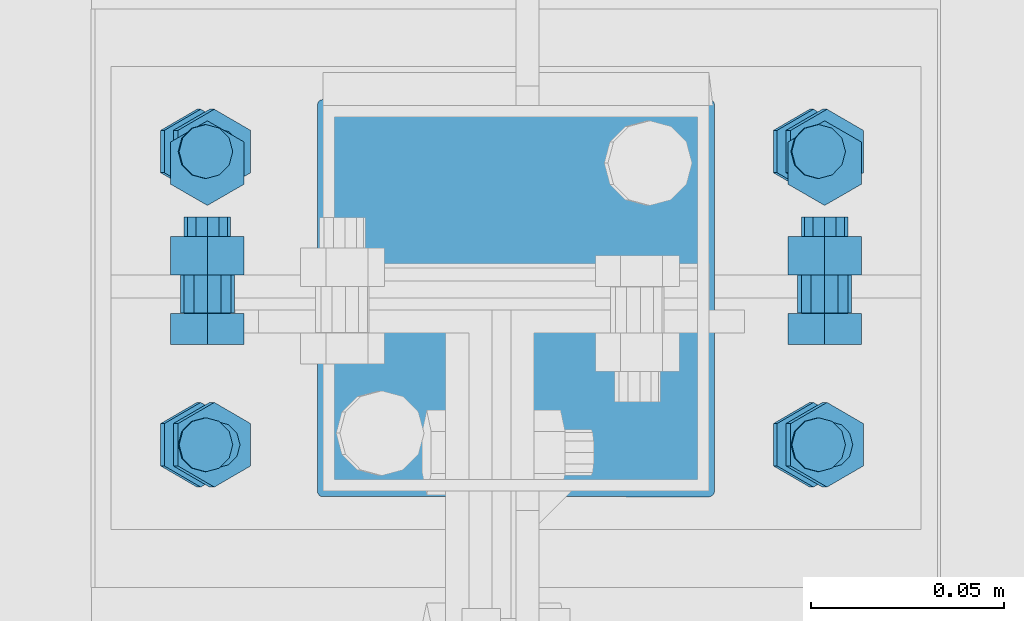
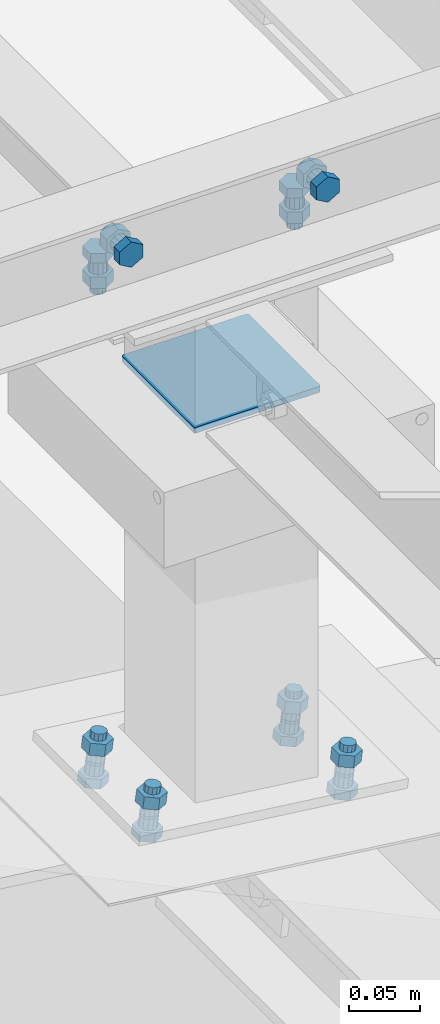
# One storey, part 378 of 3134: 5 mechanical fasteners, 4 elements without a shape of their own.
"""IFC2X3 building model written with IfcOpenShell, lengths in millimetres."""

from ifc_helpers import new_model, si_unit, frame, origin_with_axes, place, context, subcontext, project, spatial, faceted_brep, source, transform, mapped, material, type_object, element, aggregate, save


model = new_model("IFC2X3")

# Units and contexts
model_context = context("Model", 3, precision=1e-05, world=origin_with_axes())
body_context = subcontext(model_context, "Body", "Model", "MODEL_VIEW")
ifc_project = project(units=[si_unit("LENGTHUNIT", "METRE", prefix="MILLI"), si_unit("AREAUNIT", "SQUARE_METRE"), si_unit("VOLUMEUNIT", "CUBIC_METRE"), si_unit("MASSUNIT", "GRAM", prefix="KILO"), si_unit("TIMEUNIT", "SECOND"), si_unit("PLANEANGLEUNIT", "RADIAN"), si_unit("SOLIDANGLEUNIT", "STERADIAN"), si_unit("THERMODYNAMICTEMPERATUREUNIT", "DEGREE_CELSIUS"), si_unit("LUMINOUSINTENSITYUNIT", "LUMEN")], contexts=[model_context])

# Site, building, storey
site_placement = place(None, origin_with_axes())
site = spatial("IfcSite", under=ifc_project, at=site_placement, CompositionType="ELEMENT")
building_placement = place(site_placement, origin_with_axes())
building = spatial("IfcBuilding", under=site, at=building_placement, Name="Undefined", CompositionType="ELEMENT")
storey_placement = place(building_placement, origin_with_axes())
storey = spatial("IfcBuildingStorey", under=building, at=storey_placement, Name="Undefined", CompositionType="ELEMENT", Elevation=0.0)

# Assembly, mechanical fastener
assembly_1_placement = place(storey_placement, origin_with_axes())
assembly_1 = element("IfcElementAssembly", 1, at=assembly_1_placement, inside=storey, AssemblyPlace="NOTDEFINED", PredefinedType="RIGID_FRAME")
ifc_material_1 = material(Name="8.8")
mechanical_fastener_type = type_object("IfcMechanicalFastenerType", Name="Bolt assembly")
shared_shape_1 = source(origin_with_axes(), body_context, "Body", "Brep", [
    faceted_brep([(10.9696551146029, -14.0, 0.0), (5.48482755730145, -14.0, 9.5), (-5.48482755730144, -14.0, 9.5), (-10.9696551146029, -14.0, 1.34339530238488e-15), (-5.48482755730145, -14.0, -9.5), (5.48482755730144, -14.0, -9.50000000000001), (5.48482755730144, -6.0, -9.50000000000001), (-5.48482755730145, -6.0, -9.5), (-10.9696551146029, -6.0, 1.34339530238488e-15), (-5.48482755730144, -6.0, 9.5), (5.48482755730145, -6.0, 9.5), (10.9696551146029, -6.0, 0.0), (6.0, -6.0, 0.0), (5.19615242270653, -6.0, 3.00000000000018), (2.99999999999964, -6.0, 5.19615242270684), (-6.21801588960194e-13, -6.0, 6.0), (-3.00000000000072, -6.0, 5.19615242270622), (-5.19615242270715, -6.0, 2.9999999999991), (-6.0, -6.0, -1.24360317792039e-12), (-5.19615242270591, -6.0, -3.00000000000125), (-2.99999999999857, -6.0, -5.19615242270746), (1.85874342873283e-12, -6.0, -6.0), (3.00000000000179, -6.0, -5.1961524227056), (5.19615242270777, -6.0, -2.99999999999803), (5.19615242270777, 24.0, -2.99999999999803), (3.00000000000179, 24.0, -5.1961524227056), (1.85874342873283e-12, 24.0, -6.0), (-2.99999999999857, 24.0, -5.19615242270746), (-5.19615242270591, 24.0, -3.00000000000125), (-6.0, 24.0, -1.24360317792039e-12), (-5.19615242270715, 24.0, 2.9999999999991), (-3.00000000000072, 24.0, 5.19615242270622), (-6.21801588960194e-13, 24.0, 6.0), (2.99999999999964, 24.0, 5.19615242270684), (5.19615242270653, 24.0, 3.00000000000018), (6.0, 24.0, 0.0), (10.9696551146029, 6.00000000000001, 0.0), (5.48482755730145, 6.00000000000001, 9.5), (-5.48482755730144, 6.00000000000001, 9.5), (-10.9696551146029, 6.00000000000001, 1.34339530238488e-15), (-5.48482755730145, 6.00000000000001, -9.5), (5.48482755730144, 6.00000000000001, -9.50000000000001), (5.48482755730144, 16.0, -9.50000000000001), (-5.48482755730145, 16.0, -9.5), (-10.9696551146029, 16.0, 1.34339530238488e-15), (-5.48482755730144, 16.0, 9.5), (5.48482755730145, 16.0, 9.5), (10.9696551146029, 16.0, 0.0)], [[[0, 1, 2, 3, 4, 5]], [[6, 7, 8, 9, 10, 11]], [[0, 11, 10, 1]], [[1, 10, 9, 2]], [[2, 9, 8, 3]], [[3, 8, 7, 4]], [[4, 7, 6, 5]], [[5, 6, 11, 0]], [[12, 13, 14, 15, 16, 17, 18, 19, 20, 21, 22, 23]], [[24, 25, 26, 27, 28, 29, 30, 31, 32, 33, 34, 35]], [[12, 35, 34, 13]], [[13, 34, 33, 14]], [[14, 33, 32, 15]], [[15, 32, 31, 16]], [[16, 31, 30, 17]], [[17, 30, 29, 18]], [[18, 29, 28, 19]], [[19, 28, 27, 20]], [[20, 27, 26, 21]], [[21, 26, 25, 22]], [[22, 25, 24, 23]], [[23, 24, 35, 12]], [[36, 37, 38, 39, 40, 41]], [[42, 43, 44, 45, 46, 47]], [[36, 47, 46, 37]], [[37, 46, 45, 38]], [[38, 45, 44, 39]], [[39, 44, 43, 40]], [[40, 43, 42, 41]], [[41, 42, 47, 36]]]),
    faceted_brep([(7.0, -0.1, 0.0), (6.06217782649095, -0.1, 3.50000000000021), (3.49999999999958, -0.1, 6.06217782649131), (-7.25435187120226e-13, -0.1, 7.0), (-3.50000000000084, -0.1, 6.06217782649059), (-6.06217782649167, -0.1, 3.49999999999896), (-7.0, -0.1, -1.45087037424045e-12), (-6.06217782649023, -0.1, -3.50000000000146), (-3.49999999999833, -0.1, -6.06217782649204), (2.1685340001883e-12, -0.1, -7.0), (3.50000000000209, -0.1, -6.06217782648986), (6.0621778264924, -0.1, -3.4999999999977), (6.0621778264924, 6.00000000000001, -3.4999999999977), (3.50000000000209, 6.00000000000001, -6.06217782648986), (2.1685340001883e-12, 6.00000000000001, -7.0), (-3.49999999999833, 6.00000000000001, -6.06217782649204), (-6.06217782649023, 6.00000000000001, -3.50000000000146), (-7.0, 6.00000000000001, -1.45087037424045e-12), (-6.06217782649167, 6.00000000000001, 3.49999999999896), (-3.50000000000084, 6.00000000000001, 6.06217782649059), (-7.25435187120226e-13, 6.00000000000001, 7.0), (3.49999999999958, 6.00000000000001, 6.06217782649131), (6.06217782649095, 6.00000000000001, 3.50000000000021), (7.0, 6.00000000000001, 0.0), (7.0, -5.9, 0.0), (6.06217782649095, -5.9, 3.50000000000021), (3.49999999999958, -5.9, 6.06217782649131), (-7.25435187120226e-13, -5.9, 7.0), (-3.50000000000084, -5.9, 6.06217782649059), (-6.06217782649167, -5.9, 3.49999999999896), (-7.0, -5.9, -1.45087037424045e-12), (-6.06217782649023, -5.9, -3.50000000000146), (-3.49999999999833, -5.9, -6.06217782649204), (2.1685340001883e-12, -5.9, -7.0), (3.50000000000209, -5.9, -6.06217782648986), (6.0621778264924, -5.9, -3.4999999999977), (6.0621778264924, 0.0999999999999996, -3.4999999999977), (3.50000000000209, 0.0999999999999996, -6.06217782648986), (2.1685340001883e-12, 0.0999999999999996, -7.0), (-3.49999999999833, 0.0999999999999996, -6.06217782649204), (-6.06217782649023, 0.0999999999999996, -3.50000000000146), (-7.0, 0.0999999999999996, -1.45087037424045e-12), (-6.06217782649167, 0.0999999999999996, 3.49999999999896), (-3.50000000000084, 0.0999999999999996, 6.06217782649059), (-7.25435187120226e-13, 0.0999999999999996, 7.0), (3.49999999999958, 0.0999999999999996, 6.06217782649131), (6.06217782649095, 0.0999999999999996, 3.50000000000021), (7.0, 0.0999999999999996, 0.0)], [[[0, 1, 2, 3, 4, 5, 6, 7, 8, 9, 10, 11]], [[12, 13, 14, 15, 16, 17, 18, 19, 20, 21, 22, 23]], [[0, 23, 22, 1]], [[1, 22, 21, 2]], [[2, 21, 20, 3]], [[3, 20, 19, 4]], [[4, 19, 18, 5]], [[5, 18, 17, 6]], [[6, 17, 16, 7]], [[7, 16, 15, 8]], [[8, 15, 14, 9]], [[9, 14, 13, 10]], [[10, 13, 12, 11]], [[11, 12, 23, 0]], [[24, 25, 26, 27, 28, 29, 30, 31, 32, 33, 34, 35]], [[36, 37, 38, 39, 40, 41, 42, 43, 44, 45, 46, 47]], [[24, 47, 46, 25]], [[25, 46, 45, 26]], [[26, 45, 44, 27]], [[27, 44, 43, 28]], [[28, 43, 42, 29]], [[29, 42, 41, 30]], [[30, 41, 40, 31]], [[31, 40, 39, 32]], [[32, 39, 38, 33]], [[33, 38, 37, 34]], [[34, 37, 36, 35]], [[35, 36, 47, 24]]]),
])
mechanical_fastener_1_placement = place(assembly_1_placement, frame((70902.0, 22085.0, 5850.0), z_axis=(1.0, 0.0, 0.0), x_axis=(0.0, -1.0, 0.0)))
mechanical_fastener_1 = element("IfcMechanicalFastener", 2, at=mechanical_fastener_1_placement, type_object=mechanical_fastener_type, material=ifc_material_1, Name="Bolt assembly", NominalDiameter=12.0, NominalLength=30.0, context=body_context, shape_type="MappedRepresentation", body=[
    mapped(shared_shape_1, transform((0.0, -5.32963895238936e-10, -79.9999999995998))),
    mapped(shared_shape_1, transform((0.0, 5.3114490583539e-10, 79.9999999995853))),
])

assembly_2_placement = place(storey_placement, origin_with_axes())
assembly_2 = element("IfcElementAssembly", 3, at=assembly_2_placement, inside=storey, AssemblyPlace="NOTDEFINED", PredefinedType="RIGID_FRAME")
shared_shape_2 = source(origin_with_axes(), body_context, "Body", "Brep", [
    faceted_brep([(7.0, 13.0000253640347, 0.0), (6.06217782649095, 13.0000253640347, 3.50000000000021), (3.49999999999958, 13.0000253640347, 6.06217782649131), (-7.25435187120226e-13, 13.0000253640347, 7.0), (-3.50000000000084, 13.0000253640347, 6.06217782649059), (-6.06217782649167, 13.0000253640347, 3.49999999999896), (-7.0, 13.0000253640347, -1.45087037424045e-12), (-6.06217782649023, 13.0000253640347, -3.50000000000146), (-3.49999999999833, 13.0000253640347, -6.06217782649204), (2.1685340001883e-12, 13.0000253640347, -7.0), (3.50000000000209, 13.0000253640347, -6.06217782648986), (6.0621778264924, 13.0000253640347, -3.4999999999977), (6.0621778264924, 15.0999999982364, -3.4999999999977), (3.50000000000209, 15.0999999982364, -6.06217782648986), (2.1685340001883e-12, 15.0999999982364, -7.0), (-3.49999999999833, 15.0999999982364, -6.06217782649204), (-6.06217782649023, 15.0999999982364, -3.50000000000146), (-7.0, 15.0999999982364, -1.45087037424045e-12), (-6.06217782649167, 15.0999999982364, 3.49999999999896), (-3.50000000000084, 15.0999999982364, 6.06217782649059), (-7.25435187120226e-13, 15.0999999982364, 7.0), (3.49999999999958, 15.0999999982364, 6.06217782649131), (6.06217782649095, 15.0999999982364, 3.50000000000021), (7.0, 15.0999999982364, 0.0)], [[[0, 1, 2, 3, 4, 5, 6, 7, 8, 9, 10, 11]], [[12, 13, 14, 15, 16, 17, 18, 19, 20, 21, 22, 23]], [[0, 23, 22, 1]], [[1, 22, 21, 2]], [[2, 21, 20, 3]], [[3, 20, 19, 4]], [[4, 19, 18, 5]], [[5, 18, 17, 6]], [[6, 17, 16, 7]], [[7, 16, 15, 8]], [[8, 15, 14, 9]], [[9, 14, 13, 10]], [[10, 13, 12, 11]], [[11, 12, 23, 0]]]),
])
mechanical_fastener_2_placement = place(assembly_2_placement, frame((70899.2096374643, 22088.0, 5396.76588730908), z_axis=(-0.992631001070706, 0.0, 0.121176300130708), x_axis=(0.0, -1.0, 0.0)))
mechanical_fastener_2 = element("IfcMechanicalFastener", 4, at=mechanical_fastener_2_placement, type_object=mechanical_fastener_type, material=ifc_material_1, Name="Bolt assembly", NominalDiameter=12.0, NominalLength=2.0, context=body_context, shape_type="MappedRepresentation", body=[
    mapped(shared_shape_2, transform((0.0, -5.32963895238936e-10, -79.9999999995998))),
    mapped(shared_shape_2, transform((76.0, -5.32963895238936e-10, -79.9999999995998))),
    mapped(shared_shape_2, transform((0.0, 5.3114490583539e-10, 79.9999999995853))),
    mapped(shared_shape_2, transform((76.0, 5.3114490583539e-10, 79.9999999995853))),
])
aggregate(assembly_2, [mechanical_fastener_2])

assembly_3_placement = place(storey_placement, origin_with_axes())
assembly_3 = element("IfcElementAssembly", 5, at=assembly_3_placement, inside=storey, AssemblyPlace="NOTDEFINED", PredefinedType="RIGID_FRAME")
ifc_material_2 = material(Name="6.8")
shared_shape_3 = source(origin_with_axes(), body_context, "Body", "Brep", [
    faceted_brep([(51.5, 1.36424205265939e-12, 50.0), (51.3858192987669, 1.36424205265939e-12, 50.5740251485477), (51.0606601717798, 1.36424205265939e-12, 51.0606601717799), (50.5740251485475, 1.36424205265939e-12, 51.385819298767), (-50.0000000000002, 1.36424205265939e-12, 51.5), (-50.7500000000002, 1.36424205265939e-12, 51.2990381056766), (-51.2990381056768, 1.36424205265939e-12, 50.7499999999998), (-51.5, 1.36424205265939e-12, 49.9999999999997), (-51.5, 1.36424205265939e-12, -50.0000000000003), (-51.2990381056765, 1.36424205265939e-12, -50.7500000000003), (-50.7499999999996, 1.36424205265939e-12, -51.2990381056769), (-49.9999999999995, 1.36424205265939e-12, -51.5), (50.0000000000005, 1.36424205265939e-12, -51.5), (50.7500000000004, 1.36424205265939e-12, -51.2990381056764), (51.2990381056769, 1.36424205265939e-12, -50.7499999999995), (51.5, 1.36424205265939e-12, -49.9999999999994), (51.5, 5.10000000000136, -49.9999999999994), (51.2990381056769, 5.10000000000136, -50.7499999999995), (50.7500000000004, 5.10000000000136, -51.2990381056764), (50.0000000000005, 5.10000000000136, -51.5), (-49.9999999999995, 5.10000000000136, -51.5), (-50.7499999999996, 5.10000000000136, -51.2990381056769), (-51.2990381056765, 5.10000000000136, -50.7500000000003), (-51.5, 5.10000000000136, -50.0000000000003), (-51.5, 5.10000000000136, 49.9999999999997), (-51.2990381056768, 5.10000000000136, 50.7499999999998), (-50.7500000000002, 5.10000000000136, 51.2990381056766), (-50.0000000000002, 5.10000000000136, 51.5), (50.5740251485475, 5.10000000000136, 51.385819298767), (51.0606601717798, 5.10000000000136, 51.0606601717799), (51.3858192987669, 5.10000000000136, 50.5740251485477), (51.5, 5.10000000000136, 50.0)], [[[0, 1, 2, 3, 4, 5, 6, 7, 8, 9, 10, 11, 12, 13, 14, 15]], [[16, 17, 18, 19, 20, 21, 22, 23, 24, 25, 26, 27, 28, 29, 30, 31]], [[0, 31, 30, 1]], [[1, 30, 29, 2]], [[2, 29, 28, 3]], [[3, 28, 27, 4]], [[4, 27, 26, 5]], [[5, 26, 25, 6]], [[6, 25, 24, 7]], [[7, 24, 23, 8]], [[8, 23, 22, 9]], [[9, 22, 21, 10]], [[10, 21, 20, 11]], [[11, 20, 19, 12]], [[12, 19, 18, 13]], [[13, 18, 17, 14]], [[14, 17, 16, 15]], [[15, 16, 31, 0]]]),
])
mechanical_fastener_3_placement = place(assembly_3_placement, frame((70902.0, 22050.0, 5750.0), z_axis=(0.0, -1.0, 0.0), x_axis=(-1.0, 0.0, 0.0)))
mechanical_fastener_3 = element("IfcMechanicalFastener", 6, at=mechanical_fastener_3_placement, type_object=mechanical_fastener_type, material=ifc_material_2, Name="Bolt assembly", NominalDiameter=10.0, NominalLength=5.0, context=body_context, shape_type="MappedRepresentation", body=[
    mapped(shared_shape_3, transform((0.0, 0.0, 0.0))),
])
aggregate(assembly_3, [mechanical_fastener_3])

# Mechanical fastener
shared_shape_4 = source(origin_with_axes(), body_context, "Body", "Brep", [
    faceted_brep([(10.9696551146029, -12.0, 0.0), (5.48482755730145, -12.0, 9.5), (-5.48482755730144, -12.0, 9.5), (-10.9696551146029, -12.0, 1.34339530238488e-15), (-5.48482755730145, -12.0, -9.5), (5.48482755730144, -12.0, -9.50000000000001), (5.48482755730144, -4.0, -9.50000000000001), (-5.48482755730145, -4.0, -9.5), (-10.9696551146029, -4.0, 1.34339530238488e-15), (-5.48482755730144, -4.0, 9.5), (5.48482755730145, -4.0, 9.5), (10.9696551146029, -4.0, 0.0), (6.0, -4.0, 0.0), (5.19615242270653, -4.0, 3.00000000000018), (2.99999999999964, -4.0, 5.19615242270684), (-6.21801588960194e-13, -4.0, 6.0), (-3.00000000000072, -4.0, 5.19615242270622), (-5.19615242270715, -4.0, 2.9999999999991), (-6.0, -4.0, -1.24360317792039e-12), (-5.19615242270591, -4.0, -3.00000000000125), (-2.99999999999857, -4.0, -5.19615242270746), (1.85874342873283e-12, -4.0, -6.0), (3.00000000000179, -4.0, -5.1961524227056), (5.19615242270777, -4.0, -2.99999999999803), (5.19615242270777, 21.0, -2.99999999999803), (3.00000000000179, 21.0, -5.1961524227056), (1.85874342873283e-12, 21.0, -6.0), (-2.99999999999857, 21.0, -5.19615242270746), (-5.19615242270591, 21.0, -3.00000000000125), (-6.0, 21.0, -1.24360317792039e-12), (-5.19615242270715, 21.0, 2.9999999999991), (-3.00000000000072, 21.0, 5.19615242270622), (-6.21801588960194e-13, 21.0, 6.0), (2.99999999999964, 21.0, 5.19615242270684), (5.19615242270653, 21.0, 3.00000000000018), (6.0, 21.0, 0.0), (10.9696551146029, 6.00000000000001, 0.0), (5.48482755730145, 6.00000000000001, 9.5), (-5.48482755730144, 6.00000000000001, 9.5), (-10.9696551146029, 6.00000000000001, 1.34339530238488e-15), (-5.48482755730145, 6.00000000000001, -9.5), (5.48482755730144, 6.00000000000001, -9.50000000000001), (5.48482755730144, 16.0, -9.50000000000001), (-5.48482755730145, 16.0, -9.5), (-10.9696551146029, 16.0, 1.34339530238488e-15), (-5.48482755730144, 16.0, 9.5), (5.48482755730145, 16.0, 9.5), (10.9696551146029, 16.0, 0.0)], [[[0, 1, 2, 3, 4, 5]], [[6, 7, 8, 9, 10, 11]], [[0, 11, 10, 1]], [[1, 10, 9, 2]], [[2, 9, 8, 3]], [[3, 8, 7, 4]], [[4, 7, 6, 5]], [[5, 6, 11, 0]], [[12, 13, 14, 15, 16, 17, 18, 19, 20, 21, 22, 23]], [[24, 25, 26, 27, 28, 29, 30, 31, 32, 33, 34, 35]], [[12, 35, 34, 13]], [[13, 34, 33, 14]], [[14, 33, 32, 15]], [[15, 32, 31, 16]], [[16, 31, 30, 17]], [[17, 30, 29, 18]], [[18, 29, 28, 19]], [[19, 28, 27, 20]], [[20, 27, 26, 21]], [[21, 26, 25, 22]], [[22, 25, 24, 23]], [[23, 24, 35, 12]], [[36, 37, 38, 39, 40, 41]], [[42, 43, 44, 45, 46, 47]], [[36, 47, 46, 37]], [[37, 46, 45, 38]], [[38, 45, 44, 39]], [[39, 44, 43, 40]], [[40, 43, 42, 41]], [[41, 42, 47, 36]]]),
    faceted_brep([(7.0, -3.9, 0.0), (6.06217782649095, -3.9, 3.50000000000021), (3.49999999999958, -3.9, 6.06217782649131), (-7.25435187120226e-13, -3.9, 7.0), (-3.50000000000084, -3.9, 6.06217782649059), (-6.06217782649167, -3.9, 3.49999999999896), (-7.0, -3.9, -1.45087037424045e-12), (-6.06217782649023, -3.9, -3.50000000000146), (-3.49999999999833, -3.9, -6.06217782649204), (2.1685340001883e-12, -3.9, -7.0), (3.50000000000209, -3.9, -6.06217782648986), (6.0621778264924, -3.9, -3.4999999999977), (6.0621778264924, 0.0999999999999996, -3.4999999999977), (3.50000000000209, 0.0999999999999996, -6.06217782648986), (2.1685340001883e-12, 0.0999999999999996, -7.0), (-3.49999999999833, 0.0999999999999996, -6.06217782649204), (-6.06217782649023, 0.0999999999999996, -3.50000000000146), (-7.0, 0.0999999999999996, -1.45087037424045e-12), (-6.06217782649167, 0.0999999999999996, 3.49999999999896), (-3.50000000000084, 0.0999999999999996, 6.06217782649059), (-7.25435187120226e-13, 0.0999999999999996, 7.0), (3.49999999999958, 0.0999999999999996, 6.06217782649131), (6.06217782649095, 0.0999999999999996, 3.50000000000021), (7.0, 0.0999999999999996, 0.0), (7.0, -0.1, 0.0), (6.06217782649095, -0.1, 3.50000000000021), (3.49999999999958, -0.1, 6.06217782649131), (-7.25435187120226e-13, -0.1, 7.0), (-3.50000000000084, -0.1, 6.06217782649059), (-6.06217782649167, -0.1, 3.49999999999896), (-7.0, -0.1, -1.45087037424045e-12), (-6.06217782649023, -0.1, -3.50000000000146), (-3.49999999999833, -0.1, -6.06217782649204), (2.1685340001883e-12, -0.1, -7.0), (3.50000000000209, -0.1, -6.06217782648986), (6.0621778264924, -0.1, -3.4999999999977), (6.0621778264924, 6.00000000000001, -3.4999999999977), (3.50000000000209, 6.00000000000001, -6.06217782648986), (2.1685340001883e-12, 6.00000000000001, -7.0), (-3.49999999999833, 6.00000000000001, -6.06217782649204), (-6.06217782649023, 6.00000000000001, -3.50000000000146), (-7.0, 6.00000000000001, -1.45087037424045e-12), (-6.06217782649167, 6.00000000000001, 3.49999999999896), (-3.50000000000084, 6.00000000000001, 6.06217782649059), (-7.25435187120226e-13, 6.00000000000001, 7.0), (3.49999999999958, 6.00000000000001, 6.06217782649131), (6.06217782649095, 6.00000000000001, 3.50000000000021), (7.0, 6.00000000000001, 0.0)], [[[0, 1, 2, 3, 4, 5, 6, 7, 8, 9, 10, 11]], [[12, 13, 14, 15, 16, 17, 18, 19, 20, 21, 22, 23]], [[0, 23, 22, 1]], [[1, 22, 21, 2]], [[2, 21, 20, 3]], [[3, 20, 19, 4]], [[4, 19, 18, 5]], [[5, 18, 17, 6]], [[6, 17, 16, 7]], [[7, 16, 15, 8]], [[8, 15, 14, 9]], [[9, 14, 13, 10]], [[10, 13, 12, 11]], [[11, 12, 23, 0]], [[24, 25, 26, 27, 28, 29, 30, 31, 32, 33, 34, 35]], [[36, 37, 38, 39, 40, 41, 42, 43, 44, 45, 46, 47]], [[24, 47, 46, 25]], [[25, 46, 45, 26]], [[26, 45, 44, 27]], [[27, 44, 43, 28]], [[28, 43, 42, 29]], [[29, 42, 41, 30]], [[30, 41, 40, 31]], [[31, 40, 39, 32]], [[32, 39, 38, 33]], [[33, 38, 37, 34]], [[34, 37, 36, 35]], [[35, 36, 47, 24]]]),
])
mechanical_fastener_4_placement = place(assembly_1_placement, frame((70902.0, 22050.0, 5885.0), z_axis=(1.0, 0.0, 0.0), x_axis=(0.0, 0.0, -1.0)))
mechanical_fastener_4 = element("IfcMechanicalFastener", 7, at=mechanical_fastener_4_placement, type_object=mechanical_fastener_type, material=ifc_material_1, Name="Bolt assembly", NominalDiameter=12.0, NominalLength=25.0, context=body_context, shape_type="MappedRepresentation", body=[
    mapped(shared_shape_4, transform((0.0, -5.32963895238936e-10, -79.9999999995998))),
    mapped(shared_shape_4, transform((0.0, 5.3114490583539e-10, 79.9999999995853))),
])

aggregate(assembly_1, [mechanical_fastener_4, mechanical_fastener_1])

# Assembly, mechanical fastener
assembly_4_placement = place(storey_placement, origin_with_axes())
assembly_4 = element("IfcElementAssembly", 8, at=assembly_4_placement, inside=storey, Name="300", AssemblyPlace="NOTDEFINED", PredefinedType="RIGID_FRAME")
shared_shape_5 = source(origin_with_axes(), body_context, "Body", "Brep", [
    faceted_brep([(10.9696551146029, -4.14256088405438, 0.0), (5.48482755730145, -4.14256088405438, 9.5), (-5.48482755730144, -4.14256088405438, 9.5), (-10.9696551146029, -4.14256088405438, 1.34339530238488e-15), (-5.48482755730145, -4.14256088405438, -9.5), (5.48482755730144, -4.14256088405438, -9.50000000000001), (5.48482755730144, 3.85743911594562, -9.50000000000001), (-5.48482755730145, 3.85743911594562, -9.5), (-10.9696551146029, 3.85743911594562, 1.34339530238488e-15), (-5.48482755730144, 3.85743911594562, 9.5), (5.48482755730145, 3.85743911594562, 9.5), (10.9696551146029, 3.85743911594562, 0.0), (6.0, 3.85743911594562, 0.0), (5.19615242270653, 3.85743911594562, 3.00000000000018), (2.99999999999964, 3.85743911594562, 5.19615242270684), (-6.21801588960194e-13, 3.85743911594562, 6.0), (-3.00000000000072, 3.85743911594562, 5.19615242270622), (-5.19615242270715, 3.85743911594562, 2.9999999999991), (-6.0, 3.85743911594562, -1.24360317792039e-12), (-5.19615242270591, 3.85743911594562, -3.00000000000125), (-2.99999999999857, 3.85743911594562, -5.19615242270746), (1.85874342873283e-12, 3.85743911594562, -6.0), (3.00000000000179, 3.85743911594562, -5.1961524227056), (5.19615242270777, 3.85743911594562, -2.99999999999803), (5.19615242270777, 38.8574391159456, -2.99999999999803), (3.00000000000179, 38.8574391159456, -5.1961524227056), (1.85874342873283e-12, 38.8574391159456, -6.0), (-2.99999999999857, 38.8574391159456, -5.19615242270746), (-5.19615242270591, 38.8574391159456, -3.00000000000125), (-6.0, 38.8574391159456, -1.24360317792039e-12), (-5.19615242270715, 38.8574391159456, 2.9999999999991), (-3.00000000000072, 38.8574391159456, 5.19615242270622), (-6.21801588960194e-13, 38.8574391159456, 6.0), (2.99999999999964, 38.8574391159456, 5.19615242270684), (5.19615242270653, 38.8574391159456, 3.00000000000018), (6.0, 38.8574391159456, 0.0), (10.9696551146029, 23.0139082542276, 0.0), (5.48482755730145, 23.0139082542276, 9.5), (-5.48482755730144, 23.0139082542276, 9.5), (-10.9696551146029, 23.0139082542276, 1.34339530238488e-15), (-5.48482755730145, 23.0139082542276, -9.5), (5.48482755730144, 23.0139082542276, -9.50000000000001), (5.48482755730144, 33.0139082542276, -9.50000000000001), (-5.48482755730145, 33.0139082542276, -9.5), (-10.9696551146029, 33.0139082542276, 1.34339530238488e-15), (-5.48482755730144, 33.0139082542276, 9.5), (5.48482755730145, 33.0139082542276, 9.5), (10.9696551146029, 33.0139082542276, 0.0)], [[[0, 1, 2, 3, 4, 5]], [[6, 7, 8, 9, 10, 11]], [[0, 11, 10, 1]], [[1, 10, 9, 2]], [[2, 9, 8, 3]], [[3, 8, 7, 4]], [[4, 7, 6, 5]], [[5, 6, 11, 0]], [[12, 13, 14, 15, 16, 17, 18, 19, 20, 21, 22, 23]], [[24, 25, 26, 27, 28, 29, 30, 31, 32, 33, 34, 35]], [[12, 35, 34, 13]], [[13, 34, 33, 14]], [[14, 33, 32, 15]], [[15, 32, 31, 16]], [[16, 31, 30, 17]], [[17, 30, 29, 18]], [[18, 29, 28, 19]], [[19, 28, 27, 20]], [[20, 27, 26, 21]], [[21, 26, 25, 22]], [[22, 25, 24, 23]], [[23, 24, 35, 12]], [[36, 37, 38, 39, 40, 41]], [[42, 43, 44, 45, 46, 47]], [[36, 47, 46, 37]], [[37, 46, 45, 38]], [[38, 45, 44, 39]], [[39, 44, 43, 40]], [[40, 43, 42, 41]], [[41, 42, 47, 36]]]),
    faceted_brep([(7.0, 14.9139082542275, 0.0), (6.06217782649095, 14.9139082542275, 3.50000000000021), (3.49999999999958, 14.9139082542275, 6.06217782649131), (-7.25435187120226e-13, 14.9139082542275, 7.0), (-3.50000000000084, 14.9139082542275, 6.06217782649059), (-6.06217782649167, 14.9139082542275, 3.49999999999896), (-7.0, 14.9139082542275, -1.45087037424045e-12), (-6.06217782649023, 14.9139082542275, -3.50000000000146), (-3.49999999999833, 14.9139082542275, -6.06217782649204), (2.1685340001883e-12, 14.9139082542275, -7.0), (3.50000000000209, 14.9139082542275, -6.06217782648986), (6.0621778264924, 14.9139082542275, -3.4999999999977), (6.0621778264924, 23.0139082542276, -3.4999999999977), (3.50000000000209, 23.0139082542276, -6.06217782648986), (2.1685340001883e-12, 23.0139082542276, -7.0), (-3.49999999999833, 23.0139082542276, -6.06217782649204), (-6.06217782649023, 23.0139082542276, -3.50000000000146), (-7.0, 23.0139082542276, -1.45087037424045e-12), (-6.06217782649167, 23.0139082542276, 3.49999999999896), (-3.50000000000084, 23.0139082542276, 6.06217782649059), (-7.25435187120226e-13, 23.0139082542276, 7.0), (3.49999999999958, 23.0139082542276, 6.06217782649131), (6.06217782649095, 23.0139082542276, 3.50000000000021), (7.0, 23.0139082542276, 0.0), (7.0, 3.95743911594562, 0.0), (6.06217782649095, 3.95743911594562, 3.50000000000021), (3.49999999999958, 3.95743911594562, 6.06217782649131), (-7.25435187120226e-13, 3.95743911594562, 7.0), (-3.50000000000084, 3.95743911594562, 6.06217782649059), (-6.06217782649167, 3.95743911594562, 3.49999999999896), (-7.0, 3.95743911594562, -1.45087037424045e-12), (-6.06217782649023, 3.95743911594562, -3.50000000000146), (-3.49999999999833, 3.95743911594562, -6.06217782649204), (2.1685340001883e-12, 3.95743911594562, -7.0), (3.50000000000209, 3.95743911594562, -6.06217782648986), (6.0621778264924, 3.95743911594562, -3.4999999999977), (6.0621778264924, 13.1574389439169, -3.4999999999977), (3.50000000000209, 13.1574389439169, -6.06217782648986), (2.1685340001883e-12, 13.1574389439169, -7.0), (-3.49999999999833, 13.1574389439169, -6.06217782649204), (-6.06217782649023, 13.1574389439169, -3.50000000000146), (-7.0, 13.1574389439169, -1.45087037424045e-12), (-6.06217782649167, 13.1574389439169, 3.49999999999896), (-3.50000000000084, 13.1574389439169, 6.06217782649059), (-7.25435187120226e-13, 13.1574389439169, 7.0), (3.49999999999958, 13.1574389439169, 6.06217782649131), (6.06217782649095, 13.1574389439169, 3.50000000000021), (7.0, 13.1574389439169, 0.0)], [[[0, 1, 2, 3, 4, 5, 6, 7, 8, 9, 10, 11]], [[12, 13, 14, 15, 16, 17, 18, 19, 20, 21, 22, 23]], [[0, 23, 22, 1]], [[1, 22, 21, 2]], [[2, 21, 20, 3]], [[3, 20, 19, 4]], [[4, 19, 18, 5]], [[5, 18, 17, 6]], [[6, 17, 16, 7]], [[7, 16, 15, 8]], [[8, 15, 14, 9]], [[9, 14, 13, 10]], [[10, 13, 12, 11]], [[11, 12, 23, 0]], [[24, 25, 26, 27, 28, 29, 30, 31, 32, 33, 34, 35]], [[36, 37, 38, 39, 40, 41, 42, 43, 44, 45, 46, 47]], [[24, 47, 46, 25]], [[25, 46, 45, 26]], [[26, 45, 44, 27]], [[27, 44, 43, 28]], [[28, 43, 42, 29]], [[29, 42, 41, 30]], [[30, 41, 40, 31]], [[31, 40, 39, 32]], [[32, 39, 38, 33]], [[33, 38, 37, 34]], [[34, 37, 36, 35]], [[35, 36, 47, 24]]]),
])
mechanical_fastener_5_placement = place(assembly_4_placement, frame((70899.2096374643, 22088.0, 5396.76588730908), z_axis=(-0.992631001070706, 0.0, 0.121176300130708), x_axis=(0.0, -1.0, 0.0)))
mechanical_fastener_5 = element("IfcMechanicalFastener", 9, at=mechanical_fastener_5_placement, type_object=mechanical_fastener_type, material=ifc_material_1, Name="Bolt assembly", NominalDiameter=12.0, NominalLength=35.0, context=body_context, shape_type="MappedRepresentation", body=[
    mapped(shared_shape_5, transform((0.0, -5.32963895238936e-10, -79.9999999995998))),
    mapped(shared_shape_5, transform((76.0, -5.32963895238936e-10, -79.9999999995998))),
    mapped(shared_shape_5, transform((0.0, 5.3114490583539e-10, 79.9999999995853))),
    mapped(shared_shape_5, transform((76.0, 5.3114490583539e-10, 79.9999999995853))),
])
aggregate(assembly_4, [mechanical_fastener_5])

save(model, "model.ifc")
